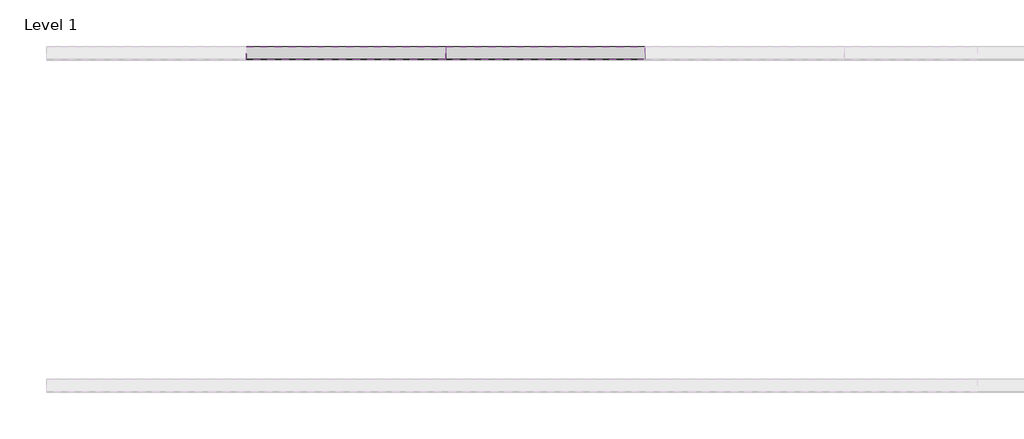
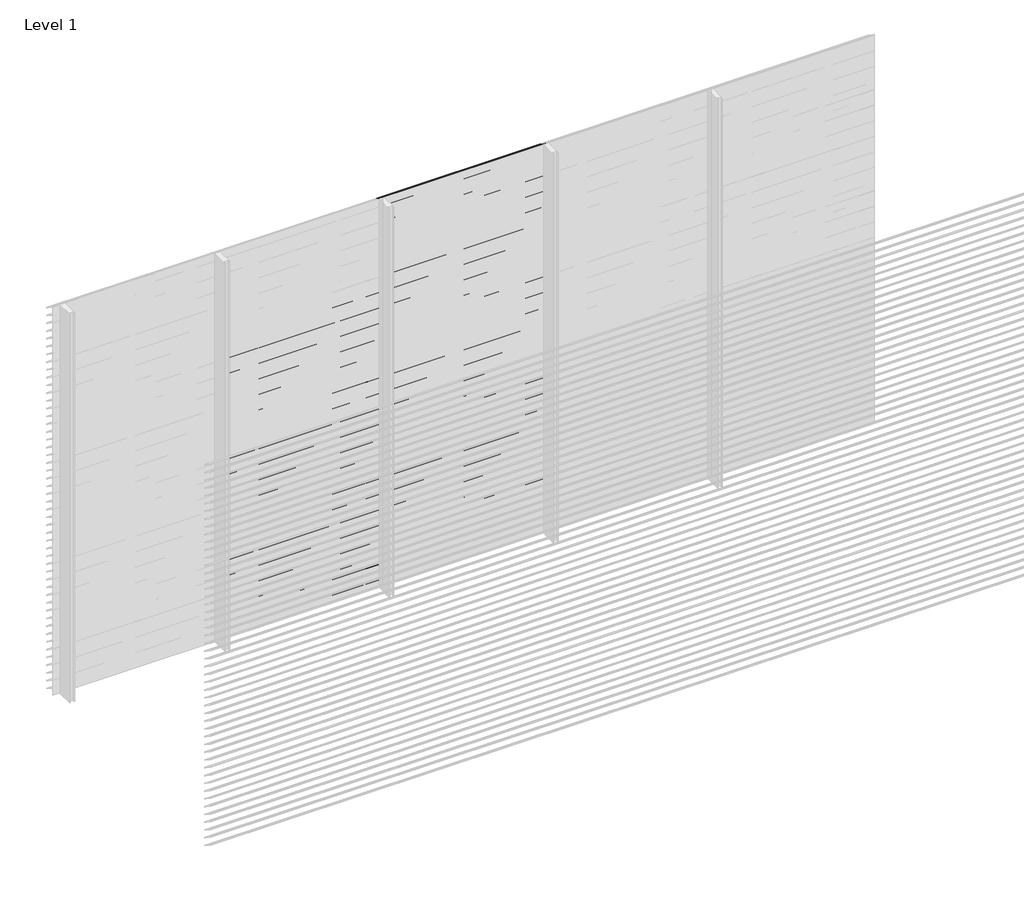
# One storey, part 15 of 153: 84 proxies.
"""IFC4 building model written with IfcOpenShell, lengths in millimetres."""

from ifc_helpers import new_model, si_unit, frame, origin, place, context, project, spatial, polyline, outline, extrude, element, save

model = new_model("IFC4")

# Units and contexts
model_context = context("Model", 3, world=origin())
ifc_project = project(units=[si_unit("LENGTHUNIT", "METRE", prefix="MILLI")], contexts=[model_context])

# Site, building, storey
site = spatial("IfcSite", under=ifc_project)
building = spatial("IfcBuilding", under=site)
storey = spatial("IfcBuildingStorey", under=building, Name="Level 1", Elevation=0.0)

# Proxies
placement = place(None, origin())
element("IfcBuildingElementProxy", 1, Name="Wall Sweeps", at=placement, inside=storey, context=model_context, shape_type="SweptSolid", body=[
    extrude(outline(polyline([(14061.0540136, 2286.0), (14061.0540136, 2280.0), (14059.8040136, 2280.7216933), (14059.8040136, 2285.2538091), (13983.0540136, 2333.9915103), (13983.0540136, 2340.0), (13984.3040136, 2340.0), (13984.3040136, 2334.7377012), (14061.0540136, 2286.0)])), frame((1666.6208099, 0.0, 0.0), z_axis=(1.0, 0.0, 0.0), x_axis=(0.0, 1.0, 0.0)), (0.0, 0.0, 1.0), 1199.9999999),
])
element("IfcBuildingElementProxy", 2, Name="Wall Sweeps", at=placement, inside=storey, context=model_context, shape_type="SweptSolid", body=[
    extrude(outline(polyline([(14061.0540136, 2226.0), (14061.0540136, 2220.0), (14059.8040136, 2220.7216933), (14059.8040136, 2225.2538091), (13983.0540136, 2273.9915103), (13983.0540136, 2280.0), (13984.3040136, 2280.0), (13984.3040136, 2274.7377012), (14061.0540136, 2226.0)])), frame((1666.6208099, 0.0, 0.0), z_axis=(1.0, 0.0, 0.0), x_axis=(0.0, 1.0, 0.0)), (0.0, 0.0, 1.0), 1199.9999999),
])
element("IfcBuildingElementProxy", 3, Name="Wall Sweeps", at=placement, inside=storey, context=model_context, shape_type="SweptSolid", body=[
    extrude(outline(polyline([(14061.0540136, 2166.0), (14061.0540136, 2160.0), (14059.8040136, 2160.7216933), (14059.8040136, 2165.2538091), (13983.0540136, 2213.9915103), (13983.0540136, 2220.0), (13984.3040136, 2220.0), (13984.3040136, 2214.7377012), (14061.0540136, 2166.0)])), frame((1666.6208099, 0.0, 0.0), z_axis=(1.0, 0.0, 0.0), x_axis=(0.0, 1.0, 0.0)), (0.0, 0.0, 1.0), 1199.9999999),
])
element("IfcBuildingElementProxy", 4, Name="Wall Sweeps", at=placement, inside=storey, context=model_context, shape_type="SweptSolid", body=[
    extrude(outline(polyline([(14061.0540136, 2106.0), (14061.0540136, 2100.0), (14059.8040136, 2100.7216933), (14059.8040136, 2105.2538091), (13983.0540136, 2153.9915103), (13983.0540136, 2160.0), (13984.3040136, 2160.0), (13984.3040136, 2154.7377012), (14061.0540136, 2106.0)])), frame((1666.6208099, 0.0, 0.0), z_axis=(1.0, 0.0, 0.0), x_axis=(0.0, 1.0, 0.0)), (0.0, 0.0, 1.0), 1199.9999999),
])
element("IfcBuildingElementProxy", 5, Name="Wall Sweeps", at=placement, inside=storey, context=model_context, shape_type="SweptSolid", body=[
    extrude(outline(polyline([(14061.0540136, 2046.0), (14061.0540136, 2040.0), (14059.8040136, 2040.7216933), (14059.8040136, 2045.2538091), (13983.0540136, 2093.9915103), (13983.0540136, 2100.0), (13984.3040136, 2100.0), (13984.3040136, 2094.7377012), (14061.0540136, 2046.0)])), frame((1666.6208099, 0.0, 0.0), z_axis=(1.0, 0.0, 0.0), x_axis=(0.0, 1.0, 0.0)), (0.0, 0.0, 1.0), 1199.9999999),
])
element("IfcBuildingElementProxy", 6, Name="Wall Sweeps", at=placement, inside=storey, context=model_context, shape_type="SweptSolid", body=[
    extrude(outline(polyline([(14061.0540136, 1986.0), (14061.0540136, 1980.0), (14059.8040136, 1980.7216933), (14059.8040136, 1985.2538091), (13983.0540136, 2033.9915103), (13983.0540136, 2040.0), (13984.3040136, 2040.0), (13984.3040136, 2034.7377012), (14061.0540136, 1986.0)])), frame((1666.6208099, 0.0, 0.0), z_axis=(1.0, 0.0, 0.0), x_axis=(0.0, 1.0, 0.0)), (0.0, 0.0, 1.0), 1199.9999999),
])
element("IfcBuildingElementProxy", 7, Name="Wall Sweeps", at=placement, inside=storey, context=model_context, shape_type="SweptSolid", body=[
    extrude(outline(polyline([(14061.0540136, 1926.0), (14061.0540136, 1920.0), (14059.8040136, 1920.7216933), (14059.8040136, 1925.2538091), (13983.0540136, 1973.9915103), (13983.0540136, 1980.0), (13984.3040136, 1980.0), (13984.3040136, 1974.7377012), (14061.0540136, 1926.0)])), frame((1666.6208099, 0.0, 0.0), z_axis=(1.0, 0.0, 0.0), x_axis=(0.0, 1.0, 0.0)), (0.0, 0.0, 1.0), 1199.9999999),
])
element("IfcBuildingElementProxy", 8, Name="Wall Sweeps", at=placement, inside=storey, context=model_context, shape_type="SweptSolid", body=[
    extrude(outline(polyline([(14061.0540136, 1866.0), (14061.0540136, 1860.0), (14059.8040136, 1860.7216933), (14059.8040136, 1865.2538091), (13983.0540136, 1913.9915103), (13983.0540136, 1920.0), (13984.3040136, 1920.0), (13984.3040136, 1914.7377012), (14061.0540136, 1866.0)])), frame((1666.6208099, 0.0, 0.0), z_axis=(1.0, 0.0, 0.0), x_axis=(0.0, 1.0, 0.0)), (0.0, 0.0, 1.0), 1199.9999999),
])
element("IfcBuildingElementProxy", 9, Name="Wall Sweeps", at=placement, inside=storey, context=model_context, shape_type="SweptSolid", body=[
    extrude(outline(polyline([(14061.0540136, 1806.0), (14061.0540136, 1800.0), (14059.8040136, 1800.7216933), (14059.8040136, 1805.2538091), (13983.0540136, 1853.9915103), (13983.0540136, 1860.0), (13984.3040136, 1860.0), (13984.3040136, 1854.7377012), (14061.0540136, 1806.0)])), frame((1666.6208099, 0.0, 0.0), z_axis=(1.0, 0.0, 0.0), x_axis=(0.0, 1.0, 0.0)), (0.0, 0.0, 1.0), 1199.9999999),
])
element("IfcBuildingElementProxy", 10, Name="Wall Sweeps", at=placement, inside=storey, context=model_context, shape_type="SweptSolid", body=[
    extrude(outline(polyline([(14061.0540136, 1746.0), (14061.0540136, 1740.0), (14059.8040136, 1740.7216933), (14059.8040136, 1745.2538091), (13983.0540136, 1793.9915103), (13983.0540136, 1800.0), (13984.3040136, 1800.0), (13984.3040136, 1794.7377012), (14061.0540136, 1746.0)])), frame((1666.6208099, 0.0, 0.0), z_axis=(1.0, 0.0, 0.0), x_axis=(0.0, 1.0, 0.0)), (0.0, 0.0, 1.0), 1199.9999999),
])
element("IfcBuildingElementProxy", 11, Name="Wall Sweeps", at=placement, inside=storey, context=model_context, shape_type="SweptSolid", body=[
    extrude(outline(polyline([(14061.0540136, 1686.0), (14061.0540136, 1680.0), (14059.8040136, 1680.7216933), (14059.8040136, 1685.2538091), (13983.0540136, 1733.9915103), (13983.0540136, 1740.0), (13984.3040136, 1740.0), (13984.3040136, 1734.7377012), (14061.0540136, 1686.0)])), frame((1666.6208099, 0.0, 0.0), z_axis=(1.0, 0.0, 0.0), x_axis=(0.0, 1.0, 0.0)), (0.0, 0.0, 1.0), 1199.9999999),
])
element("IfcBuildingElementProxy", 12, Name="Wall Sweeps", at=placement, inside=storey, context=model_context, shape_type="SweptSolid", body=[
    extrude(outline(polyline([(14061.0540136, 1626.0), (14061.0540136, 1620.0), (14059.8040136, 1620.7216933), (14059.8040136, 1625.2538091), (13983.0540136, 1673.9915103), (13983.0540136, 1680.0), (13984.3040136, 1680.0), (13984.3040136, 1674.7377012), (14061.0540136, 1626.0)])), frame((1666.6208099, 0.0, 0.0), z_axis=(1.0, 0.0, 0.0), x_axis=(0.0, 1.0, 0.0)), (0.0, 0.0, 1.0), 1199.9999999),
])
element("IfcBuildingElementProxy", 13, Name="Wall Sweeps", at=placement, inside=storey, context=model_context, shape_type="SweptSolid", body=[
    extrude(outline(polyline([(14061.0540136, 1566.0), (14061.0540136, 1560.0), (14059.8040136, 1560.7216933), (14059.8040136, 1565.2538091), (13983.0540136, 1613.9915103), (13983.0540136, 1620.0), (13984.3040136, 1620.0), (13984.3040136, 1614.7377012), (14061.0540136, 1566.0)])), frame((1666.6208099, 0.0, 0.0), z_axis=(1.0, 0.0, 0.0), x_axis=(0.0, 1.0, 0.0)), (0.0, 0.0, 1.0), 1199.9999999),
])
element("IfcBuildingElementProxy", 14, Name="Wall Sweeps", at=placement, inside=storey, context=model_context, shape_type="SweptSolid", body=[
    extrude(outline(polyline([(14061.0540136, 1506.0), (14061.0540136, 1500.0), (14059.8040136, 1500.7216933), (14059.8040136, 1505.2538091), (13983.0540136, 1553.9915103), (13983.0540136, 1560.0), (13984.3040136, 1560.0), (13984.3040136, 1554.7377012), (14061.0540136, 1506.0)])), frame((1666.6208099, 0.0, 0.0), z_axis=(1.0, 0.0, 0.0), x_axis=(0.0, 1.0, 0.0)), (0.0, 0.0, 1.0), 1199.9999999),
])
element("IfcBuildingElementProxy", 15, Name="Wall Sweeps", at=placement, inside=storey, context=model_context, shape_type="SweptSolid", body=[
    extrude(outline(polyline([(14061.0540136, 1446.0), (14061.0540136, 1440.0), (14059.8040136, 1440.7216933), (14059.8040136, 1445.2538091), (13983.0540136, 1493.9915103), (13983.0540136, 1500.0), (13984.3040136, 1500.0), (13984.3040136, 1494.7377012), (14061.0540136, 1446.0)])), frame((1666.6208099, 0.0, 0.0), z_axis=(1.0, 0.0, 0.0), x_axis=(0.0, 1.0, 0.0)), (0.0, 0.0, 1.0), 1199.9999999),
])
element("IfcBuildingElementProxy", 16, Name="Wall Sweeps", at=placement, inside=storey, context=model_context, shape_type="SweptSolid", body=[
    extrude(outline(polyline([(14061.0540136, 1386.0), (14061.0540136, 1380.0), (14059.8040136, 1380.7216933), (14059.8040136, 1385.2538091), (13983.0540136, 1433.9915103), (13983.0540136, 1440.0), (13984.3040136, 1440.0), (13984.3040136, 1434.7377012), (14061.0540136, 1386.0)])), frame((1666.6208099, 0.0, 0.0), z_axis=(1.0, 0.0, 0.0), x_axis=(0.0, 1.0, 0.0)), (0.0, 0.0, 1.0), 1199.9999999),
])
element("IfcBuildingElementProxy", 17, Name="Wall Sweeps", at=placement, inside=storey, context=model_context, shape_type="SweptSolid", body=[
    extrude(outline(polyline([(14061.0540136, 1326.0), (14061.0540136, 1320.0), (14059.8040136, 1320.7216933), (14059.8040136, 1325.2538091), (13983.0540136, 1373.9915103), (13983.0540136, 1380.0), (13984.3040136, 1380.0), (13984.3040136, 1374.7377012), (14061.0540136, 1326.0)])), frame((1666.6208099, 0.0, 0.0), z_axis=(1.0, 0.0, 0.0), x_axis=(0.0, 1.0, 0.0)), (0.0, 0.0, 1.0), 1199.9999999),
])
element("IfcBuildingElementProxy", 18, Name="Wall Sweeps", at=placement, inside=storey, context=model_context, shape_type="SweptSolid", body=[
    extrude(outline(polyline([(14061.0540136, 1266.0), (14061.0540136, 1260.0), (14059.8040136, 1260.7216933), (14059.8040136, 1265.2538091), (13983.0540136, 1313.9915103), (13983.0540136, 1320.0), (13984.3040136, 1320.0), (13984.3040136, 1314.7377012), (14061.0540136, 1266.0)])), frame((1666.6208099, 0.0, 0.0), z_axis=(1.0, 0.0, 0.0), x_axis=(0.0, 1.0, 0.0)), (0.0, 0.0, 1.0), 1199.9999999),
])
element("IfcBuildingElementProxy", 19, Name="Wall Sweeps", at=placement, inside=storey, context=model_context, shape_type="SweptSolid", body=[
    extrude(outline(polyline([(14061.0540136, 1206.0), (14061.0540136, 1200.0), (14059.8040136, 1200.7216933), (14059.8040136, 1205.2538091), (13983.0540136, 1253.9915103), (13983.0540136, 1260.0), (13984.3040136, 1260.0), (13984.3040136, 1254.7377012), (14061.0540136, 1206.0)])), frame((1666.6208099, 0.0, 0.0), z_axis=(1.0, 0.0, 0.0), x_axis=(0.0, 1.0, 0.0)), (0.0, 0.0, 1.0), 1199.9999999),
])
element("IfcBuildingElementProxy", 20, Name="Wall Sweeps", at=placement, inside=storey, context=model_context, shape_type="SweptSolid", body=[
    extrude(outline(polyline([(14061.0540136, 1146.0), (14061.0540136, 1140.0), (14059.8040136, 1140.7216933), (14059.8040136, 1145.2538091), (13983.0540136, 1193.9915103), (13983.0540136, 1200.0), (13984.3040136, 1200.0), (13984.3040136, 1194.7377012), (14061.0540136, 1146.0)])), frame((1666.6208099, 0.0, 0.0), z_axis=(1.0, 0.0, 0.0), x_axis=(0.0, 1.0, 0.0)), (0.0, 0.0, 1.0), 1199.9999999),
])
element("IfcBuildingElementProxy", 21, Name="Wall Sweeps", at=placement, inside=storey, context=model_context, shape_type="SweptSolid", body=[
    extrude(outline(polyline([(14061.0540136, 1086.0), (14061.0540136, 1080.0), (14059.8040136, 1080.7216933), (14059.8040136, 1085.2538091), (13983.0540136, 1133.9915103), (13983.0540136, 1140.0), (13984.3040136, 1140.0), (13984.3040136, 1134.7377012), (14061.0540136, 1086.0)])), frame((1666.6208099, 0.0, 0.0), z_axis=(1.0, 0.0, 0.0), x_axis=(0.0, 1.0, 0.0)), (0.0, 0.0, 1.0), 1199.9999999),
])
element("IfcBuildingElementProxy", 22, Name="Wall Sweeps", at=placement, inside=storey, context=model_context, shape_type="SweptSolid", body=[
    extrude(outline(polyline([(14061.0540136, 1026.0), (14061.0540136, 1020.0), (14059.8040136, 1020.7216933), (14059.8040136, 1025.2538091), (13983.0540136, 1073.9915103), (13983.0540136, 1080.0), (13984.3040136, 1080.0), (13984.3040136, 1074.7377012), (14061.0540136, 1026.0)])), frame((1666.6208099, 0.0, 0.0), z_axis=(1.0, 0.0, 0.0), x_axis=(0.0, 1.0, 0.0)), (0.0, 0.0, 1.0), 1199.9999999),
])
element("IfcBuildingElementProxy", 23, Name="Wall Sweeps", at=placement, inside=storey, context=model_context, shape_type="SweptSolid", body=[
    extrude(outline(polyline([(14061.0540136, 966.0), (14061.0540136, 960.0), (14059.8040136, 960.7216933), (14059.8040136, 965.2538091), (13983.0540136, 1013.9915103), (13983.0540136, 1020.0), (13984.3040136, 1020.0), (13984.3040136, 1014.7377012), (14061.0540136, 966.0)])), frame((1666.6208099, 0.0, 0.0), z_axis=(1.0, 0.0, 0.0), x_axis=(0.0, 1.0, 0.0)), (0.0, 0.0, 1.0), 1199.9999999),
])
element("IfcBuildingElementProxy", 24, Name="Wall Sweeps", at=placement, inside=storey, context=model_context, shape_type="SweptSolid", body=[
    extrude(outline(polyline([(14061.0540136, 906.0), (14061.0540136, 900.0), (14059.8040136, 900.7216933), (14059.8040136, 905.2538091), (13983.0540136, 953.9915103), (13983.0540136, 960.0), (13984.3040136, 960.0), (13984.3040136, 954.7377012), (14061.0540136, 906.0)])), frame((1666.6208099, 0.0, 0.0), z_axis=(1.0, 0.0, 0.0), x_axis=(0.0, 1.0, 0.0)), (0.0, 0.0, 1.0), 1199.9999999),
])
element("IfcBuildingElementProxy", 25, Name="Wall Sweeps", at=placement, inside=storey, context=model_context, shape_type="SweptSolid", body=[
    extrude(outline(polyline([(14061.0540136, 846.0), (14061.0540136, 840.0), (14059.8040136, 840.7216933), (14059.8040136, 845.2538091), (13983.0540136, 893.9915103), (13983.0540136, 900.0), (13984.3040136, 900.0), (13984.3040136, 894.7377012), (14061.0540136, 846.0)])), frame((1666.6208099, 0.0, 0.0), z_axis=(1.0, 0.0, 0.0), x_axis=(0.0, 1.0, 0.0)), (0.0, 0.0, 1.0), 1199.9999999),
])
element("IfcBuildingElementProxy", 26, Name="Wall Sweeps", at=placement, inside=storey, context=model_context, shape_type="SweptSolid", body=[
    extrude(outline(polyline([(14061.0540136, 786.0), (14061.0540136, 780.0), (14059.8040136, 780.7216933), (14059.8040136, 785.2538091), (13983.0540136, 833.9915103), (13983.0540136, 840.0), (13984.3040136, 840.0), (13984.3040136, 834.7377012), (14061.0540136, 786.0)])), frame((1666.6208099, 0.0, 0.0), z_axis=(1.0, 0.0, 0.0), x_axis=(0.0, 1.0, 0.0)), (0.0, 0.0, 1.0), 1199.9999999),
])
element("IfcBuildingElementProxy", 27, Name="Wall Sweeps", at=placement, inside=storey, context=model_context, shape_type="SweptSolid", body=[
    extrude(outline(polyline([(14061.0540136, 726.0), (14061.0540136, 720.0), (14059.8040136, 720.7216933), (14059.8040136, 725.2538091), (13983.0540136, 773.9915103), (13983.0540136, 780.0), (13984.3040136, 780.0), (13984.3040136, 774.7377012), (14061.0540136, 726.0)])), frame((1666.6208099, 0.0, 0.0), z_axis=(1.0, 0.0, 0.0), x_axis=(0.0, 1.0, 0.0)), (0.0, 0.0, 1.0), 1199.9999999),
])
element("IfcBuildingElementProxy", 28, Name="Wall Sweeps", at=placement, inside=storey, context=model_context, shape_type="SweptSolid", body=[
    extrude(outline(polyline([(14061.0540136, 666.0), (14061.0540136, 660.0), (14059.8040136, 660.7216933), (14059.8040136, 665.2538091), (13983.0540136, 713.9915103), (13983.0540136, 720.0), (13984.3040136, 720.0), (13984.3040136, 714.7377012), (14061.0540136, 666.0)])), frame((1666.6208099, 0.0, 0.0), z_axis=(1.0, 0.0, 0.0), x_axis=(0.0, 1.0, 0.0)), (0.0, 0.0, 1.0), 1199.9999999),
])
element("IfcBuildingElementProxy", 29, Name="Wall Sweeps", at=placement, inside=storey, context=model_context, shape_type="SweptSolid", body=[
    extrude(outline(polyline([(14061.0540136, 606.0), (14061.0540136, 600.0), (14059.8040136, 600.7216933), (14059.8040136, 605.2538091), (13983.0540136, 653.9915103), (13983.0540136, 660.0), (13984.3040136, 660.0), (13984.3040136, 654.7377012), (14061.0540136, 606.0)])), frame((1666.6208099, 0.0, 0.0), z_axis=(1.0, 0.0, 0.0), x_axis=(0.0, 1.0, 0.0)), (0.0, 0.0, 1.0), 1199.9999999),
])
element("IfcBuildingElementProxy", 30, Name="Wall Sweeps", at=placement, inside=storey, context=model_context, shape_type="SweptSolid", body=[
    extrude(outline(polyline([(14061.0540136, 546.0), (14061.0540136, 540.0), (14059.8040136, 540.7216933), (14059.8040136, 545.2538091), (13983.0540136, 593.9915103), (13983.0540136, 600.0), (13984.3040136, 600.0), (13984.3040136, 594.7377012), (14061.0540136, 546.0)])), frame((1666.6208099, 0.0, 0.0), z_axis=(1.0, 0.0, 0.0), x_axis=(0.0, 1.0, 0.0)), (0.0, 0.0, 1.0), 1199.9999999),
])
element("IfcBuildingElementProxy", 31, Name="Wall Sweeps", at=placement, inside=storey, context=model_context, shape_type="SweptSolid", body=[
    extrude(outline(polyline([(14061.0540136, 486.0), (14061.0540136, 480.0), (14059.8040136, 480.7216933), (14059.8040136, 485.2538091), (13983.0540136, 533.9915103), (13983.0540136, 540.0), (13984.3040136, 540.0), (13984.3040136, 534.7377012), (14061.0540136, 486.0)])), frame((1666.6208099, 0.0, 0.0), z_axis=(1.0, 0.0, 0.0), x_axis=(0.0, 1.0, 0.0)), (0.0, 0.0, 1.0), 1199.9999999),
])
element("IfcBuildingElementProxy", 32, Name="Wall Sweeps", at=placement, inside=storey, context=model_context, shape_type="SweptSolid", body=[
    extrude(outline(polyline([(14061.0540136, 426.0), (14061.0540136, 420.0), (14059.8040136, 420.7216933), (14059.8040136, 425.2538091), (13983.0540136, 473.9915103), (13983.0540136, 480.0), (13984.3040136, 480.0), (13984.3040136, 474.7377012), (14061.0540136, 426.0)])), frame((1666.6208099, 0.0, 0.0), z_axis=(1.0, 0.0, 0.0), x_axis=(0.0, 1.0, 0.0)), (0.0, 0.0, 1.0), 1199.9999999),
])
element("IfcBuildingElementProxy", 33, Name="Wall Sweeps", at=placement, inside=storey, context=model_context, shape_type="SweptSolid", body=[
    extrude(outline(polyline([(14061.0540136, 366.0), (14061.0540136, 360.0), (14059.8040136, 360.7216933), (14059.8040136, 365.2538091), (13983.0540136, 413.9915103), (13983.0540136, 420.0), (13984.3040136, 420.0), (13984.3040136, 414.7377012), (14061.0540136, 366.0)])), frame((1666.6208099, 0.0, 0.0), z_axis=(1.0, 0.0, 0.0), x_axis=(0.0, 1.0, 0.0)), (0.0, 0.0, 1.0), 1199.9999999),
])
element("IfcBuildingElementProxy", 34, Name="Wall Sweeps", at=placement, inside=storey, context=model_context, shape_type="SweptSolid", body=[
    extrude(outline(polyline([(14061.0540136, 306.0), (14061.0540136, 300.0), (14059.8040136, 300.7216933), (14059.8040136, 305.2538091), (13983.0540136, 353.9915103), (13983.0540136, 360.0), (13984.3040136, 360.0), (13984.3040136, 354.7377012), (14061.0540136, 306.0)])), frame((1666.6208099, 0.0, 0.0), z_axis=(1.0, 0.0, 0.0), x_axis=(0.0, 1.0, 0.0)), (0.0, 0.0, 1.0), 1199.9999999),
])
element("IfcBuildingElementProxy", 35, Name="Wall Sweeps", at=placement, inside=storey, context=model_context, shape_type="SweptSolid", body=[
    extrude(outline(polyline([(14061.0540136, 246.0), (14061.0540136, 240.0), (14059.8040136, 240.7216933), (14059.8040136, 245.2538091), (13983.0540136, 293.9915103), (13983.0540136, 300.0), (13984.3040136, 300.0), (13984.3040136, 294.7377012), (14061.0540136, 246.0)])), frame((1666.6208099, 0.0, 0.0), z_axis=(1.0, 0.0, 0.0), x_axis=(0.0, 1.0, 0.0)), (0.0, 0.0, 1.0), 1199.9999999),
])
element("IfcBuildingElementProxy", 36, Name="Wall Sweeps", at=placement, inside=storey, context=model_context, shape_type="SweptSolid", body=[
    extrude(outline(polyline([(14061.0540136, 186.0), (14061.0540136, 180.0), (14059.8040136, 180.7216933), (14059.8040136, 185.2538091), (13983.0540136, 233.9915103), (13983.0540136, 240.0), (13984.3040136, 240.0), (13984.3040136, 234.7377012), (14061.0540136, 186.0)])), frame((1666.6208099, 0.0, 0.0), z_axis=(1.0, 0.0, 0.0), x_axis=(0.0, 1.0, 0.0)), (0.0, 0.0, 1.0), 1199.9999999),
])
element("IfcBuildingElementProxy", 37, Name="Wall Sweeps", at=placement, inside=storey, context=model_context, shape_type="SweptSolid", body=[
    extrude(outline(polyline([(14061.0540136, 126.0), (14061.0540136, 120.0), (14059.8040136, 120.7216933), (14059.8040136, 125.2538091), (13983.0540136, 173.9915103), (13983.0540136, 180.0), (13984.3040136, 180.0), (13984.3040136, 174.7377012), (14061.0540136, 126.0)])), frame((1666.6208099, 0.0, 0.0), z_axis=(1.0, 0.0, 0.0), x_axis=(0.0, 1.0, 0.0)), (0.0, 0.0, 1.0), 1199.9999999),
])
element("IfcBuildingElementProxy", 38, Name="Wall Sweeps", at=placement, inside=storey, context=model_context, shape_type="SweptSolid", body=[
    extrude(outline(polyline([(14061.0540136, 66.0), (14061.0540136, 60.0), (14059.8040136, 60.7216933), (14059.8040136, 65.2538091), (13983.0540136, 113.9915103), (13983.0540136, 120.0), (13984.3040136, 120.0), (13984.3040136, 114.7377012), (14061.0540136, 66.0)])), frame((1666.6208099, 0.0, 0.0), z_axis=(1.0, 0.0, 0.0), x_axis=(0.0, 1.0, 0.0)), (0.0, 0.0, 1.0), 1199.9999999),
])
element("IfcBuildingElementProxy", 39, Name="Wall Sweeps", at=placement, inside=storey, context=model_context, shape_type="SweptSolid", body=[
    extrude(outline(polyline([(14061.0540136, 6.0), (14061.0540136, 0.0), (14059.8040136, 0.7216933), (14059.8040136, 5.2538091), (13983.0540136, 53.9915103), (13983.0540136, 60.0), (13984.3040136, 60.0), (13984.3040136, 54.7377012), (14061.0540136, 6.0)])), frame((1666.6208099, 0.0, 0.0), z_axis=(1.0, 0.0, 0.0), x_axis=(0.0, 1.0, 0.0)), (0.0, 0.0, 1.0), 1199.9999999),
])
element("IfcBuildingElementProxy", 40, Name="Wall Sweeps", at=placement, inside=storey, context=model_context, shape_type="SweptSolid", body=[
    extrude(outline(polyline([(14061.0540136, 2946.0), (14061.0540136, 2940.0), (14059.8040136, 2940.7216933), (14059.8040136, 2945.2538091), (13983.0540136, 2993.9915103), (13983.0540136, 3000.0), (13984.3040136, 3000.0), (13984.3040136, 2994.7377012), (14061.0540136, 2946.0)])), frame((2866.6208097, 0.0, 0.0), z_axis=(1.0, 0.0, 0.0), x_axis=(0.0, 1.0, 0.0)), (0.0, 0.0, 1.0), 1199.9999999),
])
element("IfcBuildingElementProxy", 41, Name="Wall Sweeps", at=placement, inside=storey, context=model_context, shape_type="SweptSolid", body=[
    extrude(outline(polyline([(14061.0540136, 2886.0), (14061.0540136, 2880.0), (14059.8040136, 2880.7216933), (14059.8040136, 2885.2538091), (13983.0540136, 2933.9915103), (13983.0540136, 2940.0), (13984.3040136, 2940.0), (13984.3040136, 2934.7377012), (14061.0540136, 2886.0)])), frame((2866.6208097, 0.0, 0.0), z_axis=(1.0, 0.0, 0.0), x_axis=(0.0, 1.0, 0.0)), (0.0, 0.0, 1.0), 1199.9999999),
])
element("IfcBuildingElementProxy", 42, Name="Wall Sweeps", at=placement, inside=storey, context=model_context, shape_type="SweptSolid", body=[
    extrude(outline(polyline([(14061.0540136, 2826.0), (14061.0540136, 2820.0), (14059.8040136, 2820.7216933), (14059.8040136, 2825.2538091), (13983.0540136, 2873.9915103), (13983.0540136, 2880.0), (13984.3040136, 2880.0), (13984.3040136, 2874.7377012), (14061.0540136, 2826.0)])), frame((2866.6208097, 0.0, 0.0), z_axis=(1.0, 0.0, 0.0), x_axis=(0.0, 1.0, 0.0)), (0.0, 0.0, 1.0), 1199.9999999),
])
element("IfcBuildingElementProxy", 43, Name="Wall Sweeps", at=placement, inside=storey, context=model_context, shape_type="SweptSolid", body=[
    extrude(outline(polyline([(14061.0540136, 2766.0), (14061.0540136, 2760.0), (14059.8040136, 2760.7216933), (14059.8040136, 2765.2538091), (13983.0540136, 2813.9915103), (13983.0540136, 2820.0), (13984.3040136, 2820.0), (13984.3040136, 2814.7377012), (14061.0540136, 2766.0)])), frame((2866.6208097, 0.0, 0.0), z_axis=(1.0, 0.0, 0.0), x_axis=(0.0, 1.0, 0.0)), (0.0, 0.0, 1.0), 1199.9999999),
])
element("IfcBuildingElementProxy", 44, Name="Wall Sweeps", at=placement, inside=storey, context=model_context, shape_type="SweptSolid", body=[
    extrude(outline(polyline([(14061.0540136, 2706.0), (14061.0540136, 2700.0), (14059.8040136, 2700.7216933), (14059.8040136, 2705.2538091), (13983.0540136, 2753.9915103), (13983.0540136, 2760.0), (13984.3040136, 2760.0), (13984.3040136, 2754.7377012), (14061.0540136, 2706.0)])), frame((2866.6208097, 0.0, 0.0), z_axis=(1.0, 0.0, 0.0), x_axis=(0.0, 1.0, 0.0)), (0.0, 0.0, 1.0), 1199.9999999),
])
element("IfcBuildingElementProxy", 45, Name="Wall Sweeps", at=placement, inside=storey, context=model_context, shape_type="SweptSolid", body=[
    extrude(outline(polyline([(14061.0540136, 2646.0), (14061.0540136, 2640.0), (14059.8040136, 2640.7216933), (14059.8040136, 2645.2538091), (13983.0540136, 2693.9915103), (13983.0540136, 2700.0), (13984.3040136, 2700.0), (13984.3040136, 2694.7377012), (14061.0540136, 2646.0)])), frame((2866.6208097, 0.0, 0.0), z_axis=(1.0, 0.0, 0.0), x_axis=(0.0, 1.0, 0.0)), (0.0, 0.0, 1.0), 1199.9999999),
])
element("IfcBuildingElementProxy", 46, Name="Wall Sweeps", at=placement, inside=storey, context=model_context, shape_type="SweptSolid", body=[
    extrude(outline(polyline([(14061.0540136, 2586.0), (14061.0540136, 2580.0), (14059.8040136, 2580.7216933), (14059.8040136, 2585.2538091), (13983.0540136, 2633.9915103), (13983.0540136, 2640.0), (13984.3040136, 2640.0), (13984.3040136, 2634.7377012), (14061.0540136, 2586.0)])), frame((2866.6208097, 0.0, 0.0), z_axis=(1.0, 0.0, 0.0), x_axis=(0.0, 1.0, 0.0)), (0.0, 0.0, 1.0), 1199.9999999),
])
element("IfcBuildingElementProxy", 47, Name="Wall Sweeps", at=placement, inside=storey, context=model_context, shape_type="SweptSolid", body=[
    extrude(outline(polyline([(14061.0540136, 2526.0), (14061.0540136, 2520.0), (14059.8040136, 2520.7216933), (14059.8040136, 2525.2538091), (13983.0540136, 2573.9915103), (13983.0540136, 2580.0), (13984.3040136, 2580.0), (13984.3040136, 2574.7377012), (14061.0540136, 2526.0)])), frame((2866.6208097, 0.0, 0.0), z_axis=(1.0, 0.0, 0.0), x_axis=(0.0, 1.0, 0.0)), (0.0, 0.0, 1.0), 1199.9999999),
])
element("IfcBuildingElementProxy", 48, Name="Wall Sweeps", at=placement, inside=storey, context=model_context, shape_type="SweptSolid", body=[
    extrude(outline(polyline([(14061.0540136, 2466.0), (14061.0540136, 2460.0), (14059.8040136, 2460.7216933), (14059.8040136, 2465.2538091), (13983.0540136, 2513.9915103), (13983.0540136, 2520.0), (13984.3040136, 2520.0), (13984.3040136, 2514.7377012), (14061.0540136, 2466.0)])), frame((2866.6208097, 0.0, 0.0), z_axis=(1.0, 0.0, 0.0), x_axis=(0.0, 1.0, 0.0)), (0.0, 0.0, 1.0), 1199.9999999),
])
element("IfcBuildingElementProxy", 49, Name="Wall Sweeps", at=placement, inside=storey, context=model_context, shape_type="SweptSolid", body=[
    extrude(outline(polyline([(14061.0540136, 2406.0), (14061.0540136, 2400.0), (14059.8040136, 2400.7216933), (14059.8040136, 2405.2538091), (13983.0540136, 2453.9915103), (13983.0540136, 2460.0), (13984.3040136, 2460.0), (13984.3040136, 2454.7377012), (14061.0540136, 2406.0)])), frame((2866.6208097, 0.0, 0.0), z_axis=(1.0, 0.0, 0.0), x_axis=(0.0, 1.0, 0.0)), (0.0, 0.0, 1.0), 1199.9999999),
])
element("IfcBuildingElementProxy", 50, Name="Wall Sweeps", at=placement, inside=storey, context=model_context, shape_type="SweptSolid", body=[
    extrude(outline(polyline([(14061.0540136, 2346.0), (14061.0540136, 2340.0), (14059.8040136, 2340.7216933), (14059.8040136, 2345.2538091), (13983.0540136, 2393.9915103), (13983.0540136, 2400.0), (13984.3040136, 2400.0), (13984.3040136, 2394.7377012), (14061.0540136, 2346.0)])), frame((2866.6208097, 0.0, 0.0), z_axis=(1.0, 0.0, 0.0), x_axis=(0.0, 1.0, 0.0)), (0.0, 0.0, 1.0), 1199.9999999),
])
element("IfcBuildingElementProxy", 51, Name="Wall Sweeps", at=placement, inside=storey, context=model_context, shape_type="SweptSolid", body=[
    extrude(outline(polyline([(14061.0540136, 2286.0), (14061.0540136, 2280.0), (14059.8040136, 2280.7216933), (14059.8040136, 2285.2538091), (13983.0540136, 2333.9915103), (13983.0540136, 2340.0), (13984.3040136, 2340.0), (13984.3040136, 2334.7377012), (14061.0540136, 2286.0)])), frame((2866.6208097, 0.0, 0.0), z_axis=(1.0, 0.0, 0.0), x_axis=(0.0, 1.0, 0.0)), (0.0, 0.0, 1.0), 1199.9999999),
])
element("IfcBuildingElementProxy", 52, Name="Wall Sweeps", at=placement, inside=storey, context=model_context, shape_type="SweptSolid", body=[
    extrude(outline(polyline([(14061.0540136, 2226.0), (14061.0540136, 2220.0), (14059.8040136, 2220.7216933), (14059.8040136, 2225.2538091), (13983.0540136, 2273.9915103), (13983.0540136, 2280.0), (13984.3040136, 2280.0), (13984.3040136, 2274.7377012), (14061.0540136, 2226.0)])), frame((2866.6208097, 0.0, 0.0), z_axis=(1.0, 0.0, 0.0), x_axis=(0.0, 1.0, 0.0)), (0.0, 0.0, 1.0), 1199.9999999),
])
element("IfcBuildingElementProxy", 53, Name="Wall Sweeps", at=placement, inside=storey, context=model_context, shape_type="SweptSolid", body=[
    extrude(outline(polyline([(14061.0540136, 2166.0), (14061.0540136, 2160.0), (14059.8040136, 2160.7216933), (14059.8040136, 2165.2538091), (13983.0540136, 2213.9915103), (13983.0540136, 2220.0), (13984.3040136, 2220.0), (13984.3040136, 2214.7377012), (14061.0540136, 2166.0)])), frame((2866.6208097, 0.0, 0.0), z_axis=(1.0, 0.0, 0.0), x_axis=(0.0, 1.0, 0.0)), (0.0, 0.0, 1.0), 1199.9999999),
])
element("IfcBuildingElementProxy", 54, Name="Wall Sweeps", at=placement, inside=storey, context=model_context, shape_type="SweptSolid", body=[
    extrude(outline(polyline([(14061.0540136, 2106.0), (14061.0540136, 2100.0), (14059.8040136, 2100.7216933), (14059.8040136, 2105.2538091), (13983.0540136, 2153.9915103), (13983.0540136, 2160.0), (13984.3040136, 2160.0), (13984.3040136, 2154.7377012), (14061.0540136, 2106.0)])), frame((2866.6208097, 0.0, 0.0), z_axis=(1.0, 0.0, 0.0), x_axis=(0.0, 1.0, 0.0)), (0.0, 0.0, 1.0), 1199.9999999),
])
element("IfcBuildingElementProxy", 55, Name="Wall Sweeps", at=placement, inside=storey, context=model_context, shape_type="SweptSolid", body=[
    extrude(outline(polyline([(14061.0540136, 2046.0), (14061.0540136, 2040.0), (14059.8040136, 2040.7216933), (14059.8040136, 2045.2538091), (13983.0540136, 2093.9915103), (13983.0540136, 2100.0), (13984.3040136, 2100.0), (13984.3040136, 2094.7377012), (14061.0540136, 2046.0)])), frame((2866.6208097, 0.0, 0.0), z_axis=(1.0, 0.0, 0.0), x_axis=(0.0, 1.0, 0.0)), (0.0, 0.0, 1.0), 1199.9999999),
])
element("IfcBuildingElementProxy", 56, Name="Wall Sweeps", at=placement, inside=storey, context=model_context, shape_type="SweptSolid", body=[
    extrude(outline(polyline([(14061.0540136, 1986.0), (14061.0540136, 1980.0), (14059.8040136, 1980.7216933), (14059.8040136, 1985.2538091), (13983.0540136, 2033.9915103), (13983.0540136, 2040.0), (13984.3040136, 2040.0), (13984.3040136, 2034.7377012), (14061.0540136, 1986.0)])), frame((2866.6208097, 0.0, 0.0), z_axis=(1.0, 0.0, 0.0), x_axis=(0.0, 1.0, 0.0)), (0.0, 0.0, 1.0), 1199.9999999),
])
element("IfcBuildingElementProxy", 57, Name="Wall Sweeps", at=placement, inside=storey, context=model_context, shape_type="SweptSolid", body=[
    extrude(outline(polyline([(14061.0540136, 1926.0), (14061.0540136, 1920.0), (14059.8040136, 1920.7216933), (14059.8040136, 1925.2538091), (13983.0540136, 1973.9915103), (13983.0540136, 1980.0), (13984.3040136, 1980.0), (13984.3040136, 1974.7377012), (14061.0540136, 1926.0)])), frame((2866.6208097, 0.0, 0.0), z_axis=(1.0, 0.0, 0.0), x_axis=(0.0, 1.0, 0.0)), (0.0, 0.0, 1.0), 1199.9999999),
])
element("IfcBuildingElementProxy", 58, Name="Wall Sweeps", at=placement, inside=storey, context=model_context, shape_type="SweptSolid", body=[
    extrude(outline(polyline([(14061.0540136, 1866.0), (14061.0540136, 1860.0), (14059.8040136, 1860.7216933), (14059.8040136, 1865.2538091), (13983.0540136, 1913.9915103), (13983.0540136, 1920.0), (13984.3040136, 1920.0), (13984.3040136, 1914.7377012), (14061.0540136, 1866.0)])), frame((2866.6208097, 0.0, 0.0), z_axis=(1.0, 0.0, 0.0), x_axis=(0.0, 1.0, 0.0)), (0.0, 0.0, 1.0), 1199.9999999),
])
element("IfcBuildingElementProxy", 59, Name="Wall Sweeps", at=placement, inside=storey, context=model_context, shape_type="SweptSolid", body=[
    extrude(outline(polyline([(14061.0540136, 1806.0), (14061.0540136, 1800.0), (14059.8040136, 1800.7216933), (14059.8040136, 1805.2538091), (13983.0540136, 1853.9915103), (13983.0540136, 1860.0), (13984.3040136, 1860.0), (13984.3040136, 1854.7377012), (14061.0540136, 1806.0)])), frame((2866.6208097, 0.0, 0.0), z_axis=(1.0, 0.0, 0.0), x_axis=(0.0, 1.0, 0.0)), (0.0, 0.0, 1.0), 1199.9999999),
])
element("IfcBuildingElementProxy", 60, Name="Wall Sweeps", at=placement, inside=storey, context=model_context, shape_type="SweptSolid", body=[
    extrude(outline(polyline([(14061.0540136, 1746.0), (14061.0540136, 1740.0), (14059.8040136, 1740.7216933), (14059.8040136, 1745.2538091), (13983.0540136, 1793.9915103), (13983.0540136, 1800.0), (13984.3040136, 1800.0), (13984.3040136, 1794.7377012), (14061.0540136, 1746.0)])), frame((2866.6208097, 0.0, 0.0), z_axis=(1.0, 0.0, 0.0), x_axis=(0.0, 1.0, 0.0)), (0.0, 0.0, 1.0), 1199.9999999),
])
element("IfcBuildingElementProxy", 61, Name="Wall Sweeps", at=placement, inside=storey, context=model_context, shape_type="SweptSolid", body=[
    extrude(outline(polyline([(14061.0540136, 1686.0), (14061.0540136, 1680.0), (14059.8040136, 1680.7216933), (14059.8040136, 1685.2538091), (13983.0540136, 1733.9915103), (13983.0540136, 1740.0), (13984.3040136, 1740.0), (13984.3040136, 1734.7377012), (14061.0540136, 1686.0)])), frame((2866.6208097, 0.0, 0.0), z_axis=(1.0, 0.0, 0.0), x_axis=(0.0, 1.0, 0.0)), (0.0, 0.0, 1.0), 1199.9999999),
])
element("IfcBuildingElementProxy", 62, Name="Wall Sweeps", at=placement, inside=storey, context=model_context, shape_type="SweptSolid", body=[
    extrude(outline(polyline([(14061.0540136, 1626.0), (14061.0540136, 1620.0), (14059.8040136, 1620.7216933), (14059.8040136, 1625.2538091), (13983.0540136, 1673.9915103), (13983.0540136, 1680.0), (13984.3040136, 1680.0), (13984.3040136, 1674.7377012), (14061.0540136, 1626.0)])), frame((2866.6208097, 0.0, 0.0), z_axis=(1.0, 0.0, 0.0), x_axis=(0.0, 1.0, 0.0)), (0.0, 0.0, 1.0), 1199.9999999),
])
element("IfcBuildingElementProxy", 63, Name="Wall Sweeps", at=placement, inside=storey, context=model_context, shape_type="SweptSolid", body=[
    extrude(outline(polyline([(14061.0540136, 1566.0), (14061.0540136, 1560.0), (14059.8040136, 1560.7216933), (14059.8040136, 1565.2538091), (13983.0540136, 1613.9915103), (13983.0540136, 1620.0), (13984.3040136, 1620.0), (13984.3040136, 1614.7377012), (14061.0540136, 1566.0)])), frame((2866.6208097, 0.0, 0.0), z_axis=(1.0, 0.0, 0.0), x_axis=(0.0, 1.0, 0.0)), (0.0, 0.0, 1.0), 1199.9999999),
])
element("IfcBuildingElementProxy", 64, Name="Wall Sweeps", at=placement, inside=storey, context=model_context, shape_type="SweptSolid", body=[
    extrude(outline(polyline([(14061.0540136, 1506.0), (14061.0540136, 1500.0), (14059.8040136, 1500.7216933), (14059.8040136, 1505.2538091), (13983.0540136, 1553.9915103), (13983.0540136, 1560.0), (13984.3040136, 1560.0), (13984.3040136, 1554.7377012), (14061.0540136, 1506.0)])), frame((2866.6208097, 0.0, 0.0), z_axis=(1.0, 0.0, 0.0), x_axis=(0.0, 1.0, 0.0)), (0.0, 0.0, 1.0), 1199.9999999),
])
element("IfcBuildingElementProxy", 65, Name="Wall Sweeps", at=placement, inside=storey, context=model_context, shape_type="SweptSolid", body=[
    extrude(outline(polyline([(14061.0540136, 1446.0), (14061.0540136, 1440.0), (14059.8040136, 1440.7216933), (14059.8040136, 1445.2538091), (13983.0540136, 1493.9915103), (13983.0540136, 1500.0), (13984.3040136, 1500.0), (13984.3040136, 1494.7377012), (14061.0540136, 1446.0)])), frame((2866.6208097, 0.0, 0.0), z_axis=(1.0, 0.0, 0.0), x_axis=(0.0, 1.0, 0.0)), (0.0, 0.0, 1.0), 1199.9999999),
])
element("IfcBuildingElementProxy", 66, Name="Wall Sweeps", at=placement, inside=storey, context=model_context, shape_type="SweptSolid", body=[
    extrude(outline(polyline([(14061.0540136, 1386.0), (14061.0540136, 1380.0), (14059.8040136, 1380.7216933), (14059.8040136, 1385.2538091), (13983.0540136, 1433.9915103), (13983.0540136, 1440.0), (13984.3040136, 1440.0), (13984.3040136, 1434.7377012), (14061.0540136, 1386.0)])), frame((2866.6208097, 0.0, 0.0), z_axis=(1.0, 0.0, 0.0), x_axis=(0.0, 1.0, 0.0)), (0.0, 0.0, 1.0), 1199.9999999),
])
element("IfcBuildingElementProxy", 67, Name="Wall Sweeps", at=placement, inside=storey, context=model_context, shape_type="SweptSolid", body=[
    extrude(outline(polyline([(14061.0540136, 1326.0), (14061.0540136, 1320.0), (14059.8040136, 1320.7216933), (14059.8040136, 1325.2538091), (13983.0540136, 1373.9915103), (13983.0540136, 1380.0), (13984.3040136, 1380.0), (13984.3040136, 1374.7377012), (14061.0540136, 1326.0)])), frame((2866.6208097, 0.0, 0.0), z_axis=(1.0, 0.0, 0.0), x_axis=(0.0, 1.0, 0.0)), (0.0, 0.0, 1.0), 1199.9999999),
])
element("IfcBuildingElementProxy", 68, Name="Wall Sweeps", at=placement, inside=storey, context=model_context, shape_type="SweptSolid", body=[
    extrude(outline(polyline([(14061.0540136, 1266.0), (14061.0540136, 1260.0), (14059.8040136, 1260.7216933), (14059.8040136, 1265.2538091), (13983.0540136, 1313.9915103), (13983.0540136, 1320.0), (13984.3040136, 1320.0), (13984.3040136, 1314.7377012), (14061.0540136, 1266.0)])), frame((2866.6208097, 0.0, 0.0), z_axis=(1.0, 0.0, 0.0), x_axis=(0.0, 1.0, 0.0)), (0.0, 0.0, 1.0), 1199.9999999),
])
element("IfcBuildingElementProxy", 69, Name="Wall Sweeps", at=placement, inside=storey, context=model_context, shape_type="SweptSolid", body=[
    extrude(outline(polyline([(14061.0540136, 1206.0), (14061.0540136, 1200.0), (14059.8040136, 1200.7216933), (14059.8040136, 1205.2538091), (13983.0540136, 1253.9915103), (13983.0540136, 1260.0), (13984.3040136, 1260.0), (13984.3040136, 1254.7377012), (14061.0540136, 1206.0)])), frame((2866.6208097, 0.0, 0.0), z_axis=(1.0, 0.0, 0.0), x_axis=(0.0, 1.0, 0.0)), (0.0, 0.0, 1.0), 1199.9999999),
])
element("IfcBuildingElementProxy", 70, Name="Wall Sweeps", at=placement, inside=storey, context=model_context, shape_type="SweptSolid", body=[
    extrude(outline(polyline([(14061.0540136, 1146.0), (14061.0540136, 1140.0), (14059.8040136, 1140.7216933), (14059.8040136, 1145.2538091), (13983.0540136, 1193.9915103), (13983.0540136, 1200.0), (13984.3040136, 1200.0), (13984.3040136, 1194.7377012), (14061.0540136, 1146.0)])), frame((2866.6208097, 0.0, 0.0), z_axis=(1.0, 0.0, 0.0), x_axis=(0.0, 1.0, 0.0)), (0.0, 0.0, 1.0), 1199.9999999),
])
element("IfcBuildingElementProxy", 71, Name="Wall Sweeps", at=placement, inside=storey, context=model_context, shape_type="SweptSolid", body=[
    extrude(outline(polyline([(14061.0540136, 1086.0), (14061.0540136, 1080.0), (14059.8040136, 1080.7216933), (14059.8040136, 1085.2538091), (13983.0540136, 1133.9915103), (13983.0540136, 1140.0), (13984.3040136, 1140.0), (13984.3040136, 1134.7377012), (14061.0540136, 1086.0)])), frame((2866.6208097, 0.0, 0.0), z_axis=(1.0, 0.0, 0.0), x_axis=(0.0, 1.0, 0.0)), (0.0, 0.0, 1.0), 1199.9999999),
])
element("IfcBuildingElementProxy", 72, Name="Wall Sweeps", at=placement, inside=storey, context=model_context, shape_type="SweptSolid", body=[
    extrude(outline(polyline([(14061.0540136, 1026.0), (14061.0540136, 1020.0), (14059.8040136, 1020.7216933), (14059.8040136, 1025.2538091), (13983.0540136, 1073.9915103), (13983.0540136, 1080.0), (13984.3040136, 1080.0), (13984.3040136, 1074.7377012), (14061.0540136, 1026.0)])), frame((2866.6208097, 0.0, 0.0), z_axis=(1.0, 0.0, 0.0), x_axis=(0.0, 1.0, 0.0)), (0.0, 0.0, 1.0), 1199.9999999),
])
element("IfcBuildingElementProxy", 73, Name="Wall Sweeps", at=placement, inside=storey, context=model_context, shape_type="SweptSolid", body=[
    extrude(outline(polyline([(14061.0540136, 966.0), (14061.0540136, 960.0), (14059.8040136, 960.7216933), (14059.8040136, 965.2538091), (13983.0540136, 1013.9915103), (13983.0540136, 1020.0), (13984.3040136, 1020.0), (13984.3040136, 1014.7377012), (14061.0540136, 966.0)])), frame((2866.6208097, 0.0, 0.0), z_axis=(1.0, 0.0, 0.0), x_axis=(0.0, 1.0, 0.0)), (0.0, 0.0, 1.0), 1199.9999999),
])
element("IfcBuildingElementProxy", 74, Name="Wall Sweeps", at=placement, inside=storey, context=model_context, shape_type="SweptSolid", body=[
    extrude(outline(polyline([(14061.0540136, 906.0), (14061.0540136, 900.0), (14059.8040136, 900.7216933), (14059.8040136, 905.2538091), (13983.0540136, 953.9915103), (13983.0540136, 960.0), (13984.3040136, 960.0), (13984.3040136, 954.7377012), (14061.0540136, 906.0)])), frame((2866.6208097, 0.0, 0.0), z_axis=(1.0, 0.0, 0.0), x_axis=(0.0, 1.0, 0.0)), (0.0, 0.0, 1.0), 1199.9999999),
])
element("IfcBuildingElementProxy", 75, Name="Wall Sweeps", at=placement, inside=storey, context=model_context, shape_type="SweptSolid", body=[
    extrude(outline(polyline([(14061.0540136, 846.0), (14061.0540136, 840.0), (14059.8040136, 840.7216933), (14059.8040136, 845.2538091), (13983.0540136, 893.9915103), (13983.0540136, 900.0), (13984.3040136, 900.0), (13984.3040136, 894.7377012), (14061.0540136, 846.0)])), frame((2866.6208097, 0.0, 0.0), z_axis=(1.0, 0.0, 0.0), x_axis=(0.0, 1.0, 0.0)), (0.0, 0.0, 1.0), 1199.9999999),
])
element("IfcBuildingElementProxy", 76, Name="Wall Sweeps", at=placement, inside=storey, context=model_context, shape_type="SweptSolid", body=[
    extrude(outline(polyline([(14061.0540136, 786.0), (14061.0540136, 780.0), (14059.8040136, 780.7216933), (14059.8040136, 785.2538091), (13983.0540136, 833.9915103), (13983.0540136, 840.0), (13984.3040136, 840.0), (13984.3040136, 834.7377012), (14061.0540136, 786.0)])), frame((2866.6208097, 0.0, 0.0), z_axis=(1.0, 0.0, 0.0), x_axis=(0.0, 1.0, 0.0)), (0.0, 0.0, 1.0), 1199.9999999),
])
element("IfcBuildingElementProxy", 77, Name="Wall Sweeps", at=placement, inside=storey, context=model_context, shape_type="SweptSolid", body=[
    extrude(outline(polyline([(14061.0540136, 726.0), (14061.0540136, 720.0), (14059.8040136, 720.7216933), (14059.8040136, 725.2538091), (13983.0540136, 773.9915103), (13983.0540136, 780.0), (13984.3040136, 780.0), (13984.3040136, 774.7377012), (14061.0540136, 726.0)])), frame((2866.6208097, 0.0, 0.0), z_axis=(1.0, 0.0, 0.0), x_axis=(0.0, 1.0, 0.0)), (0.0, 0.0, 1.0), 1199.9999999),
])
element("IfcBuildingElementProxy", 78, Name="Wall Sweeps", at=placement, inside=storey, context=model_context, shape_type="SweptSolid", body=[
    extrude(outline(polyline([(14061.0540136, 666.0), (14061.0540136, 660.0), (14059.8040136, 660.7216933), (14059.8040136, 665.2538091), (13983.0540136, 713.9915103), (13983.0540136, 720.0), (13984.3040136, 720.0), (13984.3040136, 714.7377012), (14061.0540136, 666.0)])), frame((2866.6208097, 0.0, 0.0), z_axis=(1.0, 0.0, 0.0), x_axis=(0.0, 1.0, 0.0)), (0.0, 0.0, 1.0), 1199.9999999),
])
element("IfcBuildingElementProxy", 79, Name="Wall Sweeps", at=placement, inside=storey, context=model_context, shape_type="SweptSolid", body=[
    extrude(outline(polyline([(14061.0540136, 606.0), (14061.0540136, 600.0), (14059.8040136, 600.7216933), (14059.8040136, 605.2538091), (13983.0540136, 653.9915103), (13983.0540136, 660.0), (13984.3040136, 660.0), (13984.3040136, 654.7377012), (14061.0540136, 606.0)])), frame((2866.6208097, 0.0, 0.0), z_axis=(1.0, 0.0, 0.0), x_axis=(0.0, 1.0, 0.0)), (0.0, 0.0, 1.0), 1199.9999999),
])
element("IfcBuildingElementProxy", 80, Name="Wall Sweeps", at=placement, inside=storey, context=model_context, shape_type="SweptSolid", body=[
    extrude(outline(polyline([(14061.0540136, 546.0), (14061.0540136, 540.0), (14059.8040136, 540.7216933), (14059.8040136, 545.2538091), (13983.0540136, 593.9915103), (13983.0540136, 600.0), (13984.3040136, 600.0), (13984.3040136, 594.7377012), (14061.0540136, 546.0)])), frame((2866.6208097, 0.0, 0.0), z_axis=(1.0, 0.0, 0.0), x_axis=(0.0, 1.0, 0.0)), (0.0, 0.0, 1.0), 1199.9999999),
])
element("IfcBuildingElementProxy", 81, Name="Wall Sweeps", at=placement, inside=storey, context=model_context, shape_type="SweptSolid", body=[
    extrude(outline(polyline([(14061.0540136, 486.0), (14061.0540136, 480.0), (14059.8040136, 480.7216933), (14059.8040136, 485.2538091), (13983.0540136, 533.9915103), (13983.0540136, 540.0), (13984.3040136, 540.0), (13984.3040136, 534.7377012), (14061.0540136, 486.0)])), frame((2866.6208097, 0.0, 0.0), z_axis=(1.0, 0.0, 0.0), x_axis=(0.0, 1.0, 0.0)), (0.0, 0.0, 1.0), 1199.9999999),
])
element("IfcBuildingElementProxy", 82, Name="Wall Sweeps", at=placement, inside=storey, context=model_context, shape_type="SweptSolid", body=[
    extrude(outline(polyline([(14061.0540136, 426.0), (14061.0540136, 420.0), (14059.8040136, 420.7216933), (14059.8040136, 425.2538091), (13983.0540136, 473.9915103), (13983.0540136, 480.0), (13984.3040136, 480.0), (13984.3040136, 474.7377012), (14061.0540136, 426.0)])), frame((2866.6208097, 0.0, 0.0), z_axis=(1.0, 0.0, 0.0), x_axis=(0.0, 1.0, 0.0)), (0.0, 0.0, 1.0), 1199.9999999),
])
element("IfcBuildingElementProxy", 83, Name="Wall Sweeps", at=placement, inside=storey, context=model_context, shape_type="SweptSolid", body=[
    extrude(outline(polyline([(14061.0540136, 366.0), (14061.0540136, 360.0), (14059.8040136, 360.7216933), (14059.8040136, 365.2538091), (13983.0540136, 413.9915103), (13983.0540136, 420.0), (13984.3040136, 420.0), (13984.3040136, 414.7377012), (14061.0540136, 366.0)])), frame((2866.6208097, 0.0, 0.0), z_axis=(1.0, 0.0, 0.0), x_axis=(0.0, 1.0, 0.0)), (0.0, 0.0, 1.0), 1199.9999999),
])
element("IfcBuildingElementProxy", 84, Name="Wall Sweeps", at=placement, inside=storey, context=model_context, shape_type="SweptSolid", body=[
    extrude(outline(polyline([(14061.0540136, 306.0), (14061.0540136, 300.0), (14059.8040136, 300.7216933), (14059.8040136, 305.2538091), (13983.0540136, 353.9915103), (13983.0540136, 360.0), (13984.3040136, 360.0), (13984.3040136, 354.7377012), (14061.0540136, 306.0)])), frame((2866.6208097, 0.0, 0.0), z_axis=(1.0, 0.0, 0.0), x_axis=(0.0, 1.0, 0.0)), (0.0, 0.0, 1.0), 1199.9999999),
])

save(model, "model.ifc")
